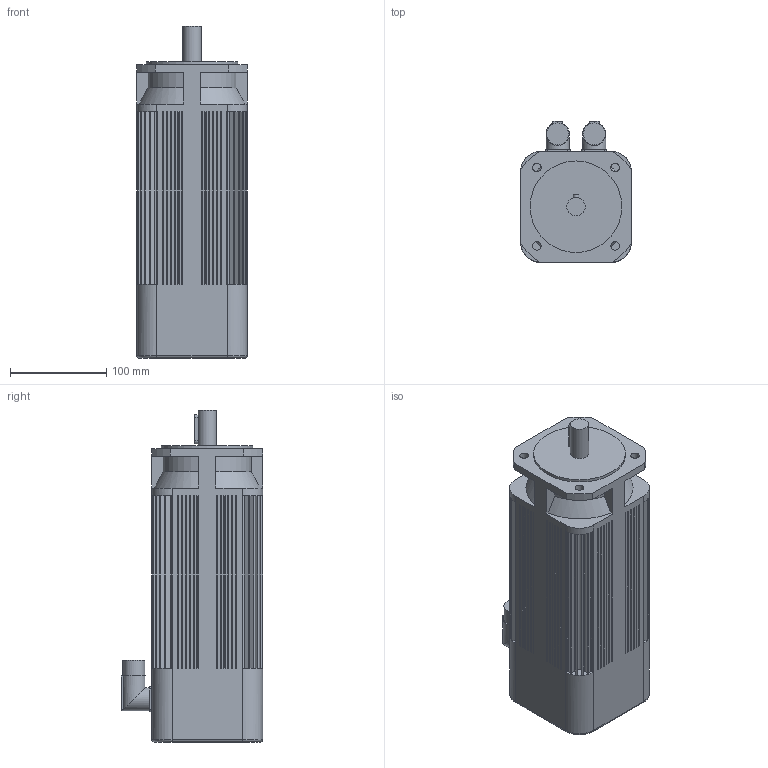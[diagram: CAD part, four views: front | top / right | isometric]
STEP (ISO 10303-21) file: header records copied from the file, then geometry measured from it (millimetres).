
FILE_DESCRIPTION(/* description */ (''),/* implementation_level */ '2;1');
FILE_NAME(/* name */ '\\Lafnas01\disegni\Archivi Lafert\3D\CAD 3D\MODELLI\Assiemi clienti\Serad\Modelli 3D Serad\B63I\Resolver\Res With Brake\B6308Ixx6B052033.ipt.stp',/* time_stamp */ '2015-09-07T10:50:45+02:00',/* author */ ('Pastrello Ylenia'),/* organization */ (''),/* preprocessor_version */ 'ST-DEVELOPER v15.6',/* originating_system */ 'Autodesk Inventor 2015',/* authorisation */ '');
FILE_SCHEMA (('CONFIG_CONTROL_DESIGN','AUTOMOTIVE_DESIGN { 1 0 10303 214 3 1 1 }'));
Length unit declared in the file: millimetre
Products named in the file (1): B6308Ixx6B052033
Bounding box: 115 x 146.5 x 344.5 mm (x, y, z)
Volume: 3747667.2 mm3; surface area: 218367 mm2
Topology: 1 solids, 1 shells, 445 faces, 1091 edges, 704 vertices
Faces by surface type: plane 351, cylinder 86, cone 4, torus 4
Full cylindrical faces by diameter (mm): 9 x4, 19 x1, 22.7 x2, 24 x2, 95 x1
Entity records: 13008 total; most frequent: CARTESIAN_POINT 2276, DIRECTION 2254, ORIENTED_EDGE 2156, EDGE_CURVE 1078, LINE 774, VECTOR 774, AXIS2_PLACEMENT_3D 740, VERTEX_POINT 702
